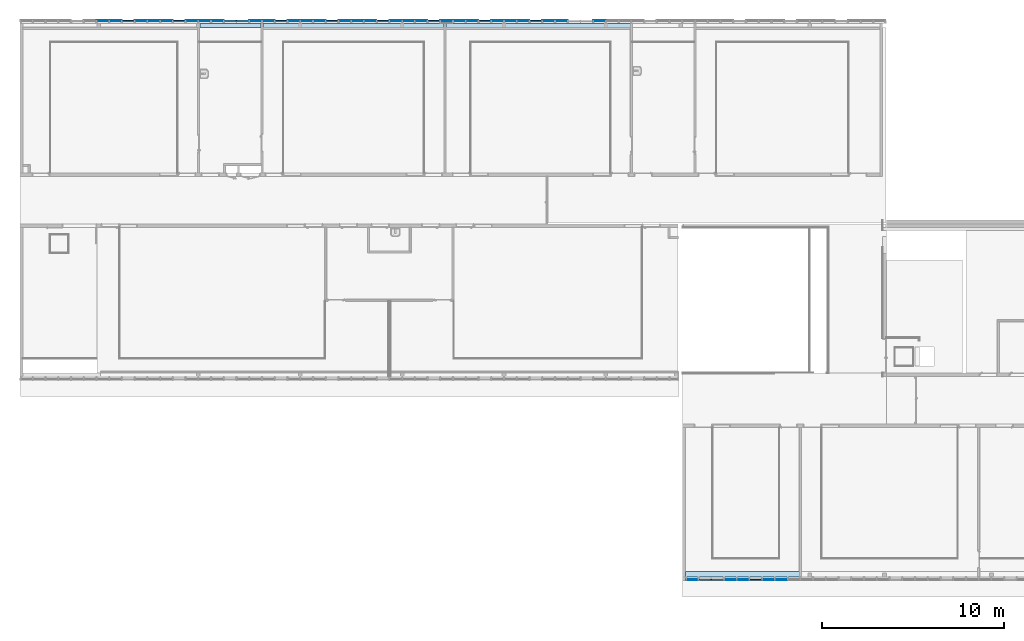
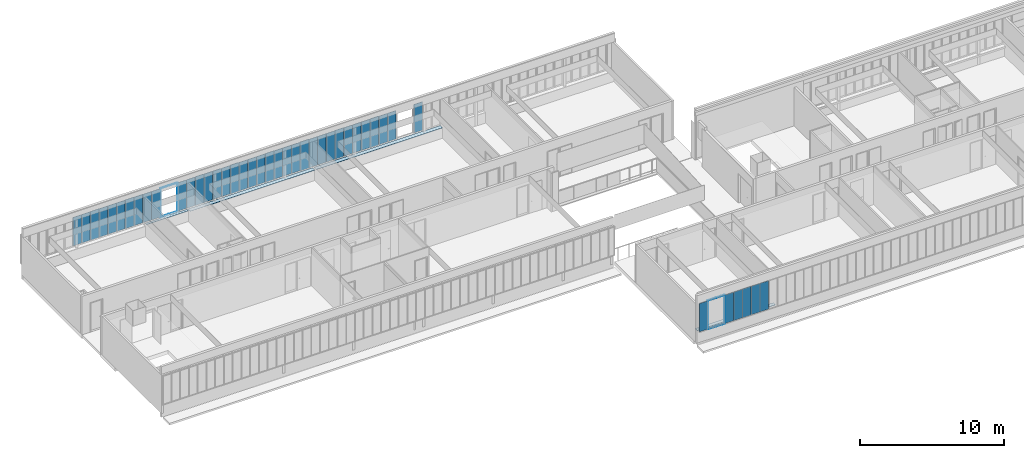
# One storey, part 20 of 87: 46 plates, 4 slabs, 2 elements without a shape of their own.
"""IFC2X3 building model written with IfcOpenShell, lengths in centimetres."""

from ifc_helpers import new_model, entity, si_unit, converted_unit, derived_unit, direction, frame, frame_2d, origin, origin_2d_with_axis, place, context, subcontext, project, spatial, rectangle, extrude, face_set, faceted_brep, surface_model, source, transform, mapped, material, layer, layer_set, layer_usage, type_object, type_shapes, element, aggregate, save


model = new_model("IFC2X3")

# Units and contexts
model_context = context("Model", 3, precision=0.001, world=origin(), true_north=direction((6.12303176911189e-17, 1.0)))
body_context = subcontext(model_context, "Body", "Model", "MODEL_VIEW")
ifc_project = project(units=[si_unit("LENGTHUNIT", "METRE", prefix="CENTI"), si_unit("AREAUNIT", "SQUARE_METRE"), si_unit("VOLUMEUNIT", "CUBIC_METRE"), converted_unit("PLANEANGLEUNIT", "DEGREE", entity("IfcRatioMeasure", 0.0174532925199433), si_unit("PLANEANGLEUNIT", "RADIAN"), dimensions=[0, 0, 0, 0, 0, 0, 0]), si_unit("MASSUNIT", "GRAM", prefix="KILO"), derived_unit("MASSDENSITYUNIT", [(si_unit("MASSUNIT", "GRAM", prefix="KILO"), 1), (si_unit("LENGTHUNIT", "METRE"), -3)]), si_unit("TIMEUNIT", "SECOND"), si_unit("FREQUENCYUNIT", "HERTZ"), si_unit("THERMODYNAMICTEMPERATUREUNIT", "DEGREE_CELSIUS"), derived_unit("THERMALTRANSMITTANCEUNIT", [(si_unit("MASSUNIT", "GRAM", prefix="KILO"), 1), (si_unit("THERMODYNAMICTEMPERATUREUNIT", "KELVIN"), -1), (si_unit("TIMEUNIT", "SECOND"), -3)]), derived_unit("VOLUMETRICFLOWRATEUNIT", [(si_unit("LENGTHUNIT", "METRE"), 3), (si_unit("TIMEUNIT", "SECOND"), -1)]), si_unit("ELECTRICCURRENTUNIT", "AMPERE"), si_unit("ELECTRICVOLTAGEUNIT", "VOLT"), si_unit("POWERUNIT", "WATT"), si_unit("FORCEUNIT", "NEWTON", prefix="KILO"), si_unit("ILLUMINANCEUNIT", "LUX"), si_unit("LUMINOUSFLUXUNIT", "LUMEN"), si_unit("LUMINOUSINTENSITYUNIT", "CANDELA"), derived_unit("USERDEFINED", [(si_unit("MASSUNIT", "GRAM", prefix="KILO"), -1), (si_unit("LENGTHUNIT", "METRE"), -2), (si_unit("TIMEUNIT", "SECOND"), 3), (si_unit("LUMINOUSFLUXUNIT", "LUMEN"), 1)]), derived_unit("LINEARVELOCITYUNIT", [(si_unit("LENGTHUNIT", "METRE"), 1), (si_unit("TIMEUNIT", "SECOND"), -1)]), si_unit("PRESSUREUNIT", "PASCAL"), derived_unit("USERDEFINED", [(si_unit("LENGTHUNIT", "METRE"), -2), (si_unit("MASSUNIT", "GRAM", prefix="KILO"), 1), (si_unit("TIMEUNIT", "SECOND"), -2)])], contexts=[model_context])

# Site, building, storey
site_placement = place(None, frame((-2781.94577612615, 7442.24238424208, 0.0)))
site = spatial("IfcSite", under=ifc_project, at=site_placement, Name="Default", CompositionType="ELEMENT")
building_placement = place(site_placement, origin())
building = spatial("IfcBuilding", under=site, at=building_placement, CompositionType="ELEMENT")
storey_placement = place(building_placement, frame((0.0, 0.0, 774.0)))
storey = spatial("IfcBuildingStorey", under=building, at=storey_placement, Name="TR - N02 - ARCH", CompositionType="ELEMENT", Elevation=774.0)

# Curtain wall, plate
curtain_wall_type = type_object("IfcCurtainWallType", Name="Mur-rideau:07 - mur rideau trame 70cm", PredefinedType="NOTDEFINED")
curtain_wall_1_placement = place(storey_placement, frame((0.0, 0.0, -774.0)))
curtain_wall_1 = element("IfcCurtainWall", 1, at=curtain_wall_1_placement, inside=storey, type_object=curtain_wall_type, Name="Mur-rideau:07 - mur rideau trame 70cm", ObjectType="Mur-rideau:07 - mur rideau trame 70cm")
ifc_material_1 = material(Name="Verre")
ifc_layer_1 = layer(ifc_material_1, 4.0)
ifc_layer_set_1 = layer_set([ifc_layer_1], Name="Panneau système:Vitré")
ifc_layer_usage_1 = layer_usage(ifc_layer_set_1, "AXIS3", "POSITIVE", 0.0)
plate_type_1 = type_object("IfcPlateType", Name="Vitré", PredefinedType="CURTAIN_PANEL", material=ifc_layer_set_1)
shared_shape_1 = source(origin(), body_context, "Body", "SweptSolid", [
    extrude(rectangle(XDim=4.0, YDim=65.0125000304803, at=origin_2d_with_axis()), frame((0.0, 0.0, 0.0), z_axis=(0.0, 0.0, 1.0), x_axis=(0.0, 1.0, 0.0)), (0.0, 0.0, 1.0), 240.7625),
])
type_shapes(plate_type_1, [shared_shape_1])
plate_1_placement = place(curtain_wall_1_placement, frame((-4714.12488282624, -3046.51349958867, 861.618750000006)))
plate_1 = element("IfcPlate", 2, at=plate_1_placement, type_object=plate_type_1, material=ifc_layer_usage_1, Name="Panneau système:Vitré", ObjectType="Panneau système:Vitré", context=body_context, shape_type="MappedRepresentation", body=[
    mapped(shared_shape_1, transform((0.0, 0.0, 0.0), scale=1.0)),
])

# Curtain wall, plates
curtain_wall_2_placement = place(storey_placement, frame((0.0, 0.0, -774.0)))
curtain_wall_2 = element("IfcCurtainWall", 3, at=curtain_wall_2_placement, inside=storey, type_object=curtain_wall_type, Name="Mur-rideau:07 - mur rideau trame 70cm", ObjectType="Mur-rideau:07 - mur rideau trame 70cm")
ifc_layer_usage_2 = layer_usage(ifc_layer_set_1, "AXIS3", "POSITIVE", 0.0)
plate_type_2 = type_object("IfcPlateType", Name="Vitré", PredefinedType="CURTAIN_PANEL", material=ifc_layer_set_1)
shared_shape_2 = source(origin(), body_context, "Body", "SweptSolid", [
    extrude(rectangle(XDim=4.0, YDim=68.2624999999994, at=origin_2d_with_axis()), frame((0.0, 0.0, 0.0), z_axis=(0.0, 0.0, 1.0), x_axis=(0.0, 1.0, 0.0)), (0.0, 0.0, 1.0), 240.7625),
])
type_shapes(plate_type_2, [shared_shape_2])
plate_2_placement = place(curtain_wall_2_placement, frame((-5224.4998776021, 26.2000000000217, 861.61875), z_axis=(0.0, 0.0, 1.0), x_axis=(-1.0, 0.0, 0.0)))
plate_2 = element("IfcPlate", 4, at=plate_2_placement, type_object=plate_type_2, material=ifc_layer_usage_2, Name="Panneau système:Vitré", ObjectType="Panneau système:Vitré", context=body_context, shape_type="MappedRepresentation", body=[
    mapped(shared_shape_2, transform((0.0, 0.0, 0.0), scale=1.0)),
])
ifc_layer_usage_3 = layer_usage(ifc_layer_set_1, "AXIS3", "POSITIVE", 0.0)
plate_3_placement = place(curtain_wall_2_placement, frame((-5434.4998776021, 26.2000000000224, 861.61875), z_axis=(0.0, 0.0, 1.0), x_axis=(-1.0, 0.0, 0.0)))
plate_3 = element("IfcPlate", 5, at=plate_3_placement, type_object=plate_type_2, material=ifc_layer_usage_3, Name="Panneau système:Vitré", ObjectType="Panneau système:Vitré", context=body_context, shape_type="MappedRepresentation", body=[
    mapped(shared_shape_2, transform((0.0, 0.0, 0.0), scale=1.0)),
])
ifc_layer_usage_4 = layer_usage(ifc_layer_set_1, "AXIS3", "POSITIVE", 0.0)
plate_4_placement = place(curtain_wall_2_placement, frame((-5504.4998776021, 26.2000000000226, 861.61875), z_axis=(0.0, 0.0, 1.0), x_axis=(-1.0, 0.0, 0.0)))
plate_4 = element("IfcPlate", 6, at=plate_4_placement, type_object=plate_type_2, material=ifc_layer_usage_4, Name="Panneau système:Vitré", ObjectType="Panneau système:Vitré", context=body_context, shape_type="MappedRepresentation", body=[
    mapped(shared_shape_2, transform((0.0, 0.0, 0.0), scale=1.0)),
])
ifc_layer_usage_5 = layer_usage(ifc_layer_set_1, "AXIS3", "POSITIVE", 0.0)
plate_5_placement = place(curtain_wall_2_placement, frame((-5644.4998776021, 26.2000000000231, 861.61875), z_axis=(0.0, 0.0, 1.0), x_axis=(-1.0, 0.0, 0.0)))
plate_5 = element("IfcPlate", 7, at=plate_5_placement, type_object=plate_type_2, material=ifc_layer_usage_5, Name="Panneau système:Vitré", ObjectType="Panneau système:Vitré", context=body_context, shape_type="MappedRepresentation", body=[
    mapped(shared_shape_2, transform((0.0, 0.0, 0.0), scale=1.0)),
])
ifc_layer_usage_6 = layer_usage(ifc_layer_set_1, "AXIS3", "POSITIVE", 0.0)
plate_6_placement = place(curtain_wall_2_placement, frame((-5714.49987760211, 26.2000000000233, 861.61875), z_axis=(0.0, 0.0, 1.0), x_axis=(-1.0, 0.0, 0.0)))
plate_6 = element("IfcPlate", 8, at=plate_6_placement, type_object=plate_type_2, material=ifc_layer_usage_6, Name="Panneau système:Vitré", ObjectType="Panneau système:Vitré", context=body_context, shape_type="MappedRepresentation", body=[
    mapped(shared_shape_2, transform((0.0, 0.0, 0.0), scale=1.0)),
])
ifc_layer_usage_7 = layer_usage(ifc_layer_set_1, "AXIS3", "POSITIVE", 0.0)
plate_7_placement = place(curtain_wall_2_placement, frame((-5784.4998776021, 26.2000000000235, 861.61875), z_axis=(0.0, 0.0, 1.0), x_axis=(-1.0, 0.0, 0.0)))
plate_7 = element("IfcPlate", 9, at=plate_7_placement, type_object=plate_type_2, material=ifc_layer_usage_7, Name="Panneau système:Vitré", ObjectType="Panneau système:Vitré", context=body_context, shape_type="MappedRepresentation", body=[
    mapped(shared_shape_2, transform((0.0, 0.0, 0.0), scale=1.0)),
])
ifc_layer_usage_8 = layer_usage(ifc_layer_set_1, "AXIS3", "POSITIVE", 0.0)
plate_8_placement = place(curtain_wall_2_placement, frame((-5924.4998776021, 26.200000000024, 861.61875), z_axis=(0.0, 0.0, 1.0), x_axis=(-1.0, 0.0, 0.0)))
plate_8 = element("IfcPlate", 10, at=plate_8_placement, type_object=plate_type_2, material=ifc_layer_usage_8, Name="Panneau système:Vitré", ObjectType="Panneau système:Vitré", context=body_context, shape_type="MappedRepresentation", body=[
    mapped(shared_shape_2, transform((0.0, 0.0, 0.0), scale=1.0)),
])
ifc_layer_usage_9 = layer_usage(ifc_layer_set_1, "AXIS3", "POSITIVE", 0.0)
plate_9_placement = place(curtain_wall_2_placement, frame((-5994.4998776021, 26.2000000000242, 861.61875), z_axis=(0.0, 0.0, 1.0), x_axis=(-1.0, 0.0, 0.0)))
plate_9 = element("IfcPlate", 11, at=plate_9_placement, type_object=plate_type_2, material=ifc_layer_usage_9, Name="Panneau système:Vitré", ObjectType="Panneau système:Vitré", context=body_context, shape_type="MappedRepresentation", body=[
    mapped(shared_shape_2, transform((0.0, 0.0, 0.0), scale=1.0)),
])
ifc_layer_usage_10 = layer_usage(ifc_layer_set_1, "AXIS3", "POSITIVE", 0.0)
plate_10_placement = place(curtain_wall_2_placement, frame((-6064.49987760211, 26.2000000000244, 861.61875), z_axis=(0.0, 0.0, 1.0), x_axis=(-1.0, 0.0, 0.0)))
plate_10 = element("IfcPlate", 12, at=plate_10_placement, type_object=plate_type_2, material=ifc_layer_usage_10, Name="Panneau système:Vitré", ObjectType="Panneau système:Vitré", context=body_context, shape_type="MappedRepresentation", body=[
    mapped(shared_shape_2, transform((0.0, 0.0, 0.0), scale=1.0)),
])
ifc_layer_usage_11 = layer_usage(ifc_layer_set_1, "AXIS3", "POSITIVE", 0.0)
plate_11_placement = place(curtain_wall_2_placement, frame((-6204.49987760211, 26.2000000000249, 861.61875), z_axis=(0.0, 0.0, 1.0), x_axis=(-1.0, 0.0, 0.0)))
plate_11 = element("IfcPlate", 13, at=plate_11_placement, type_object=plate_type_2, material=ifc_layer_usage_11, Name="Panneau système:Vitré", ObjectType="Panneau système:Vitré", context=body_context, shape_type="MappedRepresentation", body=[
    mapped(shared_shape_2, transform((0.0, 0.0, 0.0), scale=1.0)),
])
ifc_layer_usage_12 = layer_usage(ifc_layer_set_1, "AXIS3", "POSITIVE", 0.0)
plate_12_placement = place(curtain_wall_2_placement, frame((-6274.49987760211, 26.2000000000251, 861.61875), z_axis=(0.0, 0.0, 1.0), x_axis=(-1.0, 0.0, 0.0)))
plate_12 = element("IfcPlate", 14, at=plate_12_placement, type_object=plate_type_2, material=ifc_layer_usage_12, Name="Panneau système:Vitré", ObjectType="Panneau système:Vitré", context=body_context, shape_type="MappedRepresentation", body=[
    mapped(shared_shape_2, transform((0.0, 0.0, 0.0), scale=1.0)),
])
ifc_layer_usage_13 = layer_usage(ifc_layer_set_1, "AXIS3", "POSITIVE", 0.0)
plate_13_placement = place(curtain_wall_2_placement, frame((-6344.49987760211, 26.2000000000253, 861.61875), z_axis=(0.0, 0.0, 1.0), x_axis=(-1.0, 0.0, 0.0)))
plate_13 = element("IfcPlate", 15, at=plate_13_placement, type_object=plate_type_2, material=ifc_layer_usage_13, Name="Panneau système:Vitré", ObjectType="Panneau système:Vitré", context=body_context, shape_type="MappedRepresentation", body=[
    mapped(shared_shape_2, transform((0.0, 0.0, 0.0), scale=1.0)),
])
ifc_layer_usage_14 = layer_usage(ifc_layer_set_1, "AXIS3", "POSITIVE", 0.0)
plate_14_placement = place(curtain_wall_2_placement, frame((-6484.49987760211, 26.2000000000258, 861.61875), z_axis=(0.0, 0.0, 1.0), x_axis=(-1.0, 0.0, 0.0)))
plate_14 = element("IfcPlate", 16, at=plate_14_placement, type_object=plate_type_2, material=ifc_layer_usage_14, Name="Panneau système:Vitré", ObjectType="Panneau système:Vitré", context=body_context, shape_type="MappedRepresentation", body=[
    mapped(shared_shape_2, transform((0.0, 0.0, 0.0), scale=1.0)),
])
ifc_layer_usage_15 = layer_usage(ifc_layer_set_1, "AXIS3", "POSITIVE", 0.0)
plate_15_placement = place(curtain_wall_2_placement, frame((-6554.49987760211, 26.200000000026, 861.61875), z_axis=(0.0, 0.0, 1.0), x_axis=(-1.0, 0.0, 0.0)))
plate_15 = element("IfcPlate", 17, at=plate_15_placement, type_object=plate_type_2, material=ifc_layer_usage_15, Name="Panneau système:Vitré", ObjectType="Panneau système:Vitré", context=body_context, shape_type="MappedRepresentation", body=[
    mapped(shared_shape_2, transform((0.0, 0.0, 0.0), scale=1.0)),
])
ifc_layer_usage_16 = layer_usage(ifc_layer_set_1, "AXIS3", "POSITIVE", 0.0)
plate_16_placement = place(curtain_wall_2_placement, frame((-6624.49987760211, 26.2000000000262, 861.61875), z_axis=(0.0, 0.0, 1.0), x_axis=(-1.0, 0.0, 0.0)))
plate_16 = element("IfcPlate", 18, at=plate_16_placement, type_object=plate_type_2, material=ifc_layer_usage_16, Name="Panneau système:Vitré", ObjectType="Panneau système:Vitré", context=body_context, shape_type="MappedRepresentation", body=[
    mapped(shared_shape_2, transform((0.0, 0.0, 0.0), scale=1.0)),
])
ifc_layer_usage_17 = layer_usage(ifc_layer_set_1, "AXIS3", "POSITIVE", 0.0)
plate_17_placement = place(curtain_wall_2_placement, frame((-6764.49987760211, 26.2000000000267, 861.61875), z_axis=(0.0, 0.0, 1.0), x_axis=(-1.0, 0.0, 0.0)))
plate_17 = element("IfcPlate", 19, at=plate_17_placement, type_object=plate_type_2, material=ifc_layer_usage_17, Name="Panneau système:Vitré", ObjectType="Panneau système:Vitré", context=body_context, shape_type="MappedRepresentation", body=[
    mapped(shared_shape_2, transform((0.0, 0.0, 0.0), scale=1.0)),
])
ifc_layer_usage_18 = layer_usage(ifc_layer_set_1, "AXIS3", "POSITIVE", 0.0)
plate_18_placement = place(curtain_wall_2_placement, frame((-6834.49987760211, 26.2000000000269, 861.61875), z_axis=(0.0, 0.0, 1.0), x_axis=(-1.0, 0.0, 0.0)))
plate_18 = element("IfcPlate", 20, at=plate_18_placement, type_object=plate_type_2, material=ifc_layer_usage_18, Name="Panneau système:Vitré", ObjectType="Panneau système:Vitré", context=body_context, shape_type="MappedRepresentation", body=[
    mapped(shared_shape_2, transform((0.0, 0.0, 0.0), scale=1.0)),
])
ifc_layer_usage_19 = layer_usage(ifc_layer_set_1, "AXIS3", "POSITIVE", 0.0)
plate_19_placement = place(curtain_wall_2_placement, frame((-6904.49987760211, 26.2000000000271, 861.61875), z_axis=(0.0, 0.0, 1.0), x_axis=(-1.0, 0.0, 0.0)))
plate_19 = element("IfcPlate", 21, at=plate_19_placement, type_object=plate_type_2, material=ifc_layer_usage_19, Name="Panneau système:Vitré", ObjectType="Panneau système:Vitré", context=body_context, shape_type="MappedRepresentation", body=[
    mapped(shared_shape_2, transform((0.0, 0.0, 0.0), scale=1.0)),
])
ifc_layer_usage_20 = layer_usage(ifc_layer_set_1, "AXIS3", "POSITIVE", 0.0)
plate_20_placement = place(curtain_wall_2_placement, frame((-7044.49987760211, 26.2000000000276, 861.61875), z_axis=(0.0, 0.0, 1.0), x_axis=(-1.0, 0.0, 0.0)))
plate_20 = element("IfcPlate", 22, at=plate_20_placement, type_object=plate_type_2, material=ifc_layer_usage_20, Name="Panneau système:Vitré", ObjectType="Panneau système:Vitré", context=body_context, shape_type="MappedRepresentation", body=[
    mapped(shared_shape_2, transform((0.0, 0.0, 0.0), scale=1.0)),
])
ifc_layer_usage_21 = layer_usage(ifc_layer_set_1, "AXIS3", "POSITIVE", 0.0)
plate_21_placement = place(curtain_wall_2_placement, frame((-7114.49987760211, 26.2000000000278, 861.61875), z_axis=(0.0, 0.0, 1.0), x_axis=(-1.0, 0.0, 0.0)))
plate_21 = element("IfcPlate", 23, at=plate_21_placement, type_object=plate_type_2, material=ifc_layer_usage_21, Name="Panneau système:Vitré", ObjectType="Panneau système:Vitré", context=body_context, shape_type="MappedRepresentation", body=[
    mapped(shared_shape_2, transform((0.0, 0.0, 0.0), scale=1.0)),
])
ifc_layer_usage_22 = layer_usage(ifc_layer_set_1, "AXIS3", "POSITIVE", 0.0)
plate_22_placement = place(curtain_wall_2_placement, frame((-7324.49987760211, 26.2000000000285, 861.61875), z_axis=(0.0, 0.0, 1.0), x_axis=(-1.0, 0.0, 0.0)))
plate_22 = element("IfcPlate", 24, at=plate_22_placement, type_object=plate_type_2, material=ifc_layer_usage_22, Name="Panneau système:Vitré", ObjectType="Panneau système:Vitré", context=body_context, shape_type="MappedRepresentation", body=[
    mapped(shared_shape_2, transform((0.0, 0.0, 0.0), scale=1.0)),
])
ifc_layer_usage_23 = layer_usage(ifc_layer_set_1, "AXIS3", "POSITIVE", 0.0)
plate_23_placement = place(curtain_wall_2_placement, frame((-7394.49987760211, 26.2000000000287, 861.61875), z_axis=(0.0, 0.0, 1.0), x_axis=(-1.0, 0.0, 0.0)))
plate_23 = element("IfcPlate", 25, at=plate_23_placement, type_object=plate_type_2, material=ifc_layer_usage_23, Name="Panneau système:Vitré", ObjectType="Panneau système:Vitré", context=body_context, shape_type="MappedRepresentation", body=[
    mapped(shared_shape_2, transform((0.0, 0.0, 0.0), scale=1.0)),
])
ifc_layer_usage_24 = layer_usage(ifc_layer_set_1, "AXIS3", "POSITIVE", 0.0)
plate_24_placement = place(curtain_wall_2_placement, frame((-7464.49987760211, 26.200000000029, 861.61875), z_axis=(0.0, 0.0, 1.0), x_axis=(-1.0, 0.0, 0.0)))
plate_24 = element("IfcPlate", 26, at=plate_24_placement, type_object=plate_type_2, material=ifc_layer_usage_24, Name="Panneau système:Vitré", ObjectType="Panneau système:Vitré", context=body_context, shape_type="MappedRepresentation", body=[
    mapped(shared_shape_2, transform((0.0, 0.0, 0.0), scale=1.0)),
])
ifc_layer_usage_25 = layer_usage(ifc_layer_set_1, "AXIS3", "POSITIVE", 0.0)
plate_25_placement = place(curtain_wall_2_placement, frame((-7604.49987760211, 26.2000000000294, 861.61875), z_axis=(0.0, 0.0, 1.0), x_axis=(-1.0, 0.0, 0.0)))
plate_25 = element("IfcPlate", 27, at=plate_25_placement, type_object=plate_type_2, material=ifc_layer_usage_25, Name="Panneau système:Vitré", ObjectType="Panneau système:Vitré", context=body_context, shape_type="MappedRepresentation", body=[
    mapped(shared_shape_2, transform((0.0, 0.0, 0.0), scale=1.0)),
])
ifc_layer_usage_26 = layer_usage(ifc_layer_set_1, "AXIS3", "POSITIVE", 0.0)
plate_26_placement = place(curtain_wall_2_placement, frame((-7674.49987760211, 26.2000000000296, 861.61875), z_axis=(0.0, 0.0, 1.0), x_axis=(-1.0, 0.0, 0.0)))
plate_26 = element("IfcPlate", 28, at=plate_26_placement, type_object=plate_type_2, material=ifc_layer_usage_26, Name="Panneau système:Vitré", ObjectType="Panneau système:Vitré", context=body_context, shape_type="MappedRepresentation", body=[
    mapped(shared_shape_2, transform((0.0, 0.0, 0.0), scale=1.0)),
])
ifc_layer_usage_27 = layer_usage(ifc_layer_set_1, "AXIS3", "POSITIVE", 0.0)
plate_27_placement = place(curtain_wall_2_placement, frame((-7744.49987760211, 26.2000000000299, 861.61875), z_axis=(0.0, 0.0, 1.0), x_axis=(-1.0, 0.0, 0.0)))
plate_27 = element("IfcPlate", 29, at=plate_27_placement, type_object=plate_type_2, material=ifc_layer_usage_27, Name="Panneau système:Vitré", ObjectType="Panneau système:Vitré", context=body_context, shape_type="MappedRepresentation", body=[
    mapped(shared_shape_2, transform((0.0, 0.0, 0.0), scale=1.0)),
])
ifc_layer_usage_28 = layer_usage(ifc_layer_set_1, "AXIS3", "POSITIVE", 0.0)
plate_28_placement = place(curtain_wall_2_placement, frame((-7884.4998776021, 26.2000000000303, 861.61875), z_axis=(0.0, 0.0, 1.0), x_axis=(-1.0, 0.0, 0.0)))
plate_28 = element("IfcPlate", 30, at=plate_28_placement, type_object=plate_type_2, material=ifc_layer_usage_28, Name="Panneau système:Vitré", ObjectType="Panneau système:Vitré", context=body_context, shape_type="MappedRepresentation", body=[
    mapped(shared_shape_2, transform((0.0, 0.0, 0.0), scale=1.0)),
])
ifc_layer_usage_29 = layer_usage(ifc_layer_set_1, "AXIS3", "POSITIVE", 0.0)
plate_29_placement = place(curtain_wall_2_placement, frame((-7954.49987760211, 26.2000000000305, 861.61875), z_axis=(0.0, 0.0, 1.0), x_axis=(-1.0, 0.0, 0.0)))
plate_29 = element("IfcPlate", 31, at=plate_29_placement, type_object=plate_type_2, material=ifc_layer_usage_29, Name="Panneau système:Vitré", ObjectType="Panneau système:Vitré", context=body_context, shape_type="MappedRepresentation", body=[
    mapped(shared_shape_2, transform((0.0, 0.0, 0.0), scale=1.0)),
])

# Plate
ifc_layer_usage_30 = layer_usage(ifc_layer_set_1, "AXIS3", "POSITIVE", 0.0)
plate_30_placement = place(curtain_wall_1_placement, frame((-4505.749882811, -3046.51349958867, 861.618750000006)))
plate_30 = element("IfcPlate", 32, at=plate_30_placement, type_object=plate_type_2, material=ifc_layer_usage_30, Name="Panneau système:Vitré", ObjectType="Panneau système:Vitré", context=body_context, shape_type="MappedRepresentation", body=[
    mapped(shared_shape_2, transform((0.0, 0.0, 0.0), scale=1.0)),
])

ifc_layer_usage_31 = layer_usage(ifc_layer_set_1, "AXIS3", "POSITIVE", 0.0)
plate_31_placement = place(curtain_wall_1_placement, frame((-4435.749882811, -3046.51349958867, 861.618750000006)))
plate_31 = element("IfcPlate", 33, at=plate_31_placement, type_object=plate_type_2, material=ifc_layer_usage_31, Name="Panneau système:Vitré", ObjectType="Panneau système:Vitré", context=body_context, shape_type="MappedRepresentation", body=[
    mapped(shared_shape_2, transform((0.0, 0.0, 0.0), scale=1.0)),
])

ifc_layer_usage_32 = layer_usage(ifc_layer_set_1, "AXIS3", "POSITIVE", 0.0)
plate_32_placement = place(curtain_wall_1_placement, frame((-4295.749882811, -3046.51349958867, 861.618750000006)))
plate_32 = element("IfcPlate", 34, at=plate_32_placement, type_object=plate_type_2, material=ifc_layer_usage_32, Name="Panneau système:Vitré", ObjectType="Panneau système:Vitré", context=body_context, shape_type="MappedRepresentation", body=[
    mapped(shared_shape_2, transform((0.0, 0.0, 0.0), scale=1.0)),
])

ifc_layer_usage_33 = layer_usage(ifc_layer_set_1, "AXIS3", "POSITIVE", 0.0)
plate_33_placement = place(curtain_wall_1_placement, frame((-4225.749882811, -3046.51349958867, 861.618750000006)))
plate_33 = element("IfcPlate", 35, at=plate_33_placement, type_object=plate_type_2, material=ifc_layer_usage_33, Name="Panneau système:Vitré", ObjectType="Panneau système:Vitré", context=body_context, shape_type="MappedRepresentation", body=[
    mapped(shared_shape_2, transform((0.0, 0.0, 0.0), scale=1.0)),
])

plate_type_3 = type_object("IfcPlateType", Name="Vitré", PredefinedType="CURTAIN_PANEL", material=ifc_layer_set_1)
shared_shape_3 = source(origin(), body_context, "Body", "Brep", [
    faceted_brep([(-34.13125, -2.0, 1.73749999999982), (34.1312499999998, -2.0, 1.73749999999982), (34.1312499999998, -2.0, 242.5), (-34.1312499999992, -2.0, 242.5), (33.9687499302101, -2.0, 0.0), (33.9687499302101, -2.0, 244.2375), (-34.03125006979, -2.0, 244.2375), (-34.03125006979, -2.0, 0.0), (-34.13125, 2.0, 1.73749999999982), (-34.1312499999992, 2.0, 242.5), (34.1312499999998, 2.0, 242.5), (34.1312499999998, 2.0, 1.73749999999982), (33.9687499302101, 2.0, 0.0), (-34.03125006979, 2.0, 0.0), (-34.03125006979, 2.0, 244.2375), (33.9687499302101, 2.0, 244.2375)], [[[0, 1, 2, 3]], [[4, 5, 6, 7]], [[8, 9, 10, 11]], [[12, 13, 14, 15]], [[1, 0, 8, 11]], [[2, 1, 11, 10]], [[3, 2, 10, 9]], [[0, 3, 9, 8]], [[7, 13, 12, 4]], [[6, 14, 13, 7]], [[5, 15, 14, 6]], [[4, 12, 15, 5]]]),
])
type_shapes(plate_type_3, [shared_shape_3])
plate_34_placement = place(curtain_wall_2_placement, frame((-5574.4998776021, 26.2000000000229, 859.88125), z_axis=(0.0, 0.0, 1.0), x_axis=(-1.0, 0.0, 0.0)))
plate_34 = element("IfcPlate", 36, at=plate_34_placement, type_object=plate_type_3, Name="Panneau système:Vitré", ObjectType="Panneau système:Vitré", context=body_context, shape_type="MappedRepresentation", body=[
    mapped(shared_shape_3, transform((0.0, 0.0, 0.0), scale=1.0)),
])

plate_35_placement = place(curtain_wall_2_placement, frame((-5854.4998776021, 26.2000000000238, 859.88125), z_axis=(0.0, 0.0, 1.0), x_axis=(-1.0, 0.0, 0.0)))
plate_35 = element("IfcPlate", 37, at=plate_35_placement, type_object=plate_type_3, Name="Panneau système:Vitré", ObjectType="Panneau système:Vitré", context=body_context, shape_type="MappedRepresentation", body=[
    mapped(shared_shape_3, transform((0.0, 0.0, 0.0), scale=1.0)),
])

plate_36_placement = place(curtain_wall_2_placement, frame((-6134.4998776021, 26.2000000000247, 859.88125), z_axis=(0.0, 0.0, 1.0), x_axis=(-1.0, 0.0, 0.0)))
plate_36 = element("IfcPlate", 38, at=plate_36_placement, type_object=plate_type_3, Name="Panneau système:Vitré", ObjectType="Panneau système:Vitré", context=body_context, shape_type="MappedRepresentation", body=[
    mapped(shared_shape_3, transform((0.0, 0.0, 0.0), scale=1.0)),
])

plate_37_placement = place(curtain_wall_2_placement, frame((-6414.49987760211, 26.2000000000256, 859.88125), z_axis=(0.0, 0.0, 1.0), x_axis=(-1.0, 0.0, 0.0)))
plate_37 = element("IfcPlate", 39, at=plate_37_placement, type_object=plate_type_3, Name="Panneau système:Vitré", ObjectType="Panneau système:Vitré", context=body_context, shape_type="MappedRepresentation", body=[
    mapped(shared_shape_3, transform((0.0, 0.0, 0.0), scale=1.0)),
])

plate_38_placement = place(curtain_wall_2_placement, frame((-6694.49987760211, 26.2000000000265, 859.88125), z_axis=(0.0, 0.0, 1.0), x_axis=(-1.0, 0.0, 0.0)))
plate_38 = element("IfcPlate", 40, at=plate_38_placement, type_object=plate_type_3, Name="Panneau système:Vitré", ObjectType="Panneau système:Vitré", context=body_context, shape_type="MappedRepresentation", body=[
    mapped(shared_shape_3, transform((0.0, 0.0, 0.0), scale=1.0)),
])

plate_39_placement = place(curtain_wall_2_placement, frame((-6974.49987760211, 26.2000000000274, 859.88125), z_axis=(0.0, 0.0, 1.0), x_axis=(-1.0, 0.0, 0.0)))
plate_39 = element("IfcPlate", 41, at=plate_39_placement, type_object=plate_type_3, Name="Panneau système:Vitré", ObjectType="Panneau système:Vitré", context=body_context, shape_type="MappedRepresentation", body=[
    mapped(shared_shape_3, transform((0.0, 0.0, 0.0), scale=1.0)),
])

plate_40_placement = place(curtain_wall_2_placement, frame((-7534.49987760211, 26.2000000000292, 859.88125), z_axis=(0.0, 0.0, 1.0), x_axis=(-1.0, 0.0, 0.0)))
plate_40 = element("IfcPlate", 42, at=plate_40_placement, type_object=plate_type_3, Name="Panneau système:Vitré", ObjectType="Panneau système:Vitré", context=body_context, shape_type="MappedRepresentation", body=[
    mapped(shared_shape_3, transform((0.0, 0.0, 0.0), scale=1.0)),
])

plate_41_placement = place(curtain_wall_2_placement, frame((-7814.49987760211, 26.2000000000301, 859.88125), z_axis=(0.0, 0.0, 1.0), x_axis=(-1.0, 0.0, 0.0)))
plate_41 = element("IfcPlate", 43, at=plate_41_placement, type_object=plate_type_3, Name="Panneau système:Vitré", ObjectType="Panneau système:Vitré", context=body_context, shape_type="MappedRepresentation", body=[
    mapped(shared_shape_3, transform((0.0, 0.0, 0.0), scale=1.0)),
])

plate_type_4 = type_object("IfcPlateType", Name="Vitré", PredefinedType="CURTAIN_PANEL", material=ifc_layer_set_1)
shared_shape_4 = source(origin(), body_context, "Body", "Brep", [
    faceted_brep([(34.5656250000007, -2.0, 0.0), (-32.1843749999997, -2.0, 0.0), (-32.1843749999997, -2.0, 244.2375), (33.6968750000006, -2.0, 244.2375), (33.6968750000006, -2.0, 242.5), (-34.5656250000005, -2.0, 242.5), (-34.5656249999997, -2.0, 1.73749999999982), (34.5656250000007, -2.0, 1.73749999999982), (34.5656250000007, 2.0, 0.0), (34.5656250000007, 2.0, 1.73749999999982), (-34.5656249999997, 2.0, 1.73749999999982), (-34.5656250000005, 2.0, 242.5), (33.6968750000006, 2.0, 242.5), (33.6968750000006, 2.0, 244.2375), (-32.1843749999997, 2.0, 244.2375), (-32.1843749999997, 2.0, 0.0)], [[[0, 1, 2, 3, 4, 5, 6, 7]], [[8, 9, 10, 11, 12, 13, 14, 15]], [[1, 0, 8, 15]], [[2, 1, 15, 14]], [[3, 2, 14, 13]], [[4, 3, 13, 12]], [[5, 4, 12, 11]], [[6, 5, 11, 10]], [[7, 6, 10, 9]], [[0, 7, 9, 8]]]),
])
type_shapes(plate_type_4, [shared_shape_4])
plate_42_placement = place(curtain_wall_2_placement, frame((-7184.93425260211, 26.2000000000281, 859.88125), z_axis=(0.0, 0.0, 1.0), x_axis=(-1.0, 0.0, 0.0)))
plate_42 = element("IfcPlate", 44, at=plate_42_placement, type_object=plate_type_4, material=ifc_material_1, Name="Panneau système:Vitré", ObjectType="Panneau système:Vitré", context=body_context, shape_type="MappedRepresentation", body=[
    mapped(shared_shape_4, transform((0.0, 0.0, 0.0), scale=1.0)),
])

plate_43_placement = place(curtain_wall_1_placement, frame((-4645.315507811, -3046.51349958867, 859.88125)))
plate_43 = element("IfcPlate", 45, at=plate_43_placement, type_object=plate_type_4, material=ifc_material_1, Name="Panneau système:Vitré", ObjectType="Panneau système:Vitré", context=body_context, shape_type="MappedRepresentation", body=[
    mapped(shared_shape_4, transform((0.0, 0.0, 0.0), scale=1.0)),
])

plate_type_5 = type_object("IfcPlateType", Name="Vitré", PredefinedType="CURTAIN_PANEL", material=ifc_layer_set_1)
shared_shape_5 = source(origin(), body_context, "Body", "Brep", [
    faceted_brep([(32.1843749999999, -2.0, 0.0), (-34.5656249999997, -2.0, 0.0), (-34.5656249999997, -2.0, 1.73749999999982), (34.5656249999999, -2.0, 1.73749999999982), (34.5656249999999, -2.0, 242.5), (-33.6968749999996, -2.0, 242.5), (-33.6968749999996, -2.0, 244.2375), (32.1843749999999, -2.0, 244.2375), (32.1843749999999, 2.0, 0.0), (32.1843749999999, 2.0, 244.2375), (-33.6968749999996, 2.0, 244.2375), (-33.6968749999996, 2.0, 242.5), (34.5656249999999, 2.0, 242.5), (34.5656249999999, 2.0, 1.73749999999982), (-34.5656249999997, 2.0, 1.73749999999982), (-34.5656249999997, 2.0, 0.0)], [[[0, 1, 2, 3, 4, 5, 6, 7]], [[8, 9, 10, 11, 12, 13, 14, 15]], [[1, 0, 8, 15]], [[2, 1, 15, 14]], [[3, 2, 14, 13]], [[4, 3, 13, 12]], [[5, 4, 12, 11]], [[6, 5, 11, 10]], [[7, 6, 10, 9]], [[0, 7, 9, 8]]]),
])
type_shapes(plate_type_5, [shared_shape_5])
plate_44_placement = place(curtain_wall_2_placement, frame((-7254.06550260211, 26.2000000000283, 859.88125), z_axis=(0.0, 0.0, 1.0), x_axis=(-1.0, 0.0, 0.0)))
plate_44 = element("IfcPlate", 46, at=plate_44_placement, type_object=plate_type_5, material=ifc_material_1, Name="Panneau système:Vitré", ObjectType="Panneau système:Vitré", context=body_context, shape_type="MappedRepresentation", body=[
    mapped(shared_shape_5, transform((0.0, 0.0, 0.0), scale=1.0)),
])

aggregate(curtain_wall_2, [plate_2, plate_3, plate_4, plate_34, plate_5, plate_6, plate_7, plate_35, plate_8, plate_9, plate_10, plate_36, plate_11, plate_12, plate_13, plate_37, plate_14, plate_15, plate_16, plate_38, plate_17, plate_18, plate_19, plate_39, plate_20, plate_21, plate_42, plate_44, plate_22, plate_23, plate_24, plate_40, plate_25, plate_26, plate_27, plate_41, plate_28, plate_29])

plate_45_placement = place(curtain_wall_1_placement, frame((-4576.184257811, -3046.51349958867, 859.88125)))
plate_45 = element("IfcPlate", 47, at=plate_45_placement, type_object=plate_type_5, material=ifc_material_1, Name="Panneau système:Vitré", ObjectType="Panneau système:Vitré", context=body_context, shape_type="MappedRepresentation", body=[
    mapped(shared_shape_5, transform((0.0, 0.0, 0.0), scale=1.0)),
])

plate_type_6 = type_object("IfcPlateType", Name="Vitré", PredefinedType="CURTAIN_PANEL", material=ifc_layer_set_1)
shared_shape_6 = source(origin(), body_context, "Body", "SurfaceModel", [
    surface_model("IfcFaceBasedSurfaceModel", [(33.8093776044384, -2.0, 0.0), (33.8093776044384, -2.0, 244.2375), (-34.1906223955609, -2.0, 244.2375), (-34.1906223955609, -2.0, 0.0), (-34.0718776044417, -2.0, 1.73749999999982), (-34.0718776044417, -2.0, 242.5), (34.1906223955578, -2.0, 242.5), (34.1906223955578, -2.0, 1.73749999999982), (-34.0718776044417, 2.0, 1.73749999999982), (34.1906223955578, 2.0, 1.73749999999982), (34.1906223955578, 2.0, 242.5), (-34.0718776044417, 2.0, 242.5), (-34.1906223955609, 2.0, 0.0), (33.8093776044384, 2.0, 0.0), (-34.1906223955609, 2.0, 244.2375), (33.8093776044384, 2.0, 244.2375)], [face_set([[[0, 1, 2, 3], [4, 5, 6, 7]], [[7, 4, 8, 9]], [[6, 7, 9, 10]], [[5, 6, 10, 11]], [[4, 5, 11, 8]], [[3, 12, 13, 0]], [[2, 14, 12, 3]], [[1, 15, 14, 2]], [[0, 13, 15, 1]]])]),
])
type_shapes(plate_type_6, [shared_shape_6])
plate_46_placement = place(curtain_wall_1_placement, frame((-4365.80925520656, -3046.51349958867, 859.88125)))
plate_46 = element("IfcPlate", 48, at=plate_46_placement, type_object=plate_type_6, Name="Panneau système:Vitré", ObjectType="Panneau système:Vitré", context=body_context, shape_type="MappedRepresentation", body=[
    mapped(shared_shape_6, transform((0.0, 0.0, 0.0), scale=1.0)),
])

aggregate(curtain_wall_1, [plate_1, plate_43, plate_45, plate_30, plate_31, plate_46, plate_32, plate_33])

# Slabs
ifc_material_2 = material(Name="Bois tablettes")
ifc_layer_2 = layer(ifc_material_2, 2.0)
ifc_layer_set_2 = layer_set([ifc_layer_2], Name="Sol:02 - Tablette bois 2cm")
ifc_layer_usage_34 = layer_usage(ifc_layer_set_2, "AXIS3", "POSITIVE", 0.0)
slab_type_1 = type_object("IfcSlabType", Name="Sol:02 - Tablette bois 2cm", PredefinedType="FLOOR")
slab_1_placement = place(storey_placement, frame((-7966.49987760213, -3031.21349958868, 88.0)))
element("IfcSlab", 49, at=slab_1_placement, inside=storey, type_object=slab_type_1, material=ifc_layer_usage_34, Name="Sol:02 - Tablette bois 2cm:2", ObjectType="Sol:02 - Tablette bois 2cm", PredefinedType="FLOOR", context=body_context, shape_type="SweptSolid", body=[
    extrude(rectangle(XDim=626.949997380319, YDim=29.9999999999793, at=frame_2d((240.974998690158, -550.667232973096), x_axis=(-1.0, 0.0))), frame((3768.24999738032, 566.567232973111, 2.0), z_axis=(0.0, 0.0, -1.0), x_axis=(-1.0, 0.0, 0.0)), (0.0, 0.0, 1.0), 1.99999999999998),
])
ifc_layer_usage_35 = layer_usage(ifc_layer_set_2, "AXIS3", "POSITIVE", 0.0)
slab_type_2 = type_object("IfcSlabType", Name="Sol:02 - Tablette bois 2cm", PredefinedType="FLOOR")
slab_2_placement = place(storey_placement, frame((-8394.19987766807, -1120.0, 88.0)))
element("IfcSlab", 50, at=slab_2_placement, inside=storey, type_object=slab_type_2, material=ifc_layer_usage_35, Name="Sol:02 - Tablette bois 2cm:3", ObjectType="Sol:02 - Tablette bois 2cm", PredefinedType="FLOOR", context=body_context, shape_type="SweptSolid", body=[
    extrude(rectangle(XDim=31.9999999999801, YDim=1014.30000208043, at=frame_2d((941.899998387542, 549.0), x_axis=(0.0, 1.0))), frame((3774.44999741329, 565.0, 2.0), z_axis=(0.0, 0.0, -1.0), x_axis=(-1.0, 0.0, 0.0)), (0.0, 0.0, 1.0), 1.99999999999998),
])
slab_type_3 = type_object("IfcSlabType", Name="Sol:02 - Tablette bois 2cm", PredefinedType="FLOOR")
slab_3_placement = place(storey_placement, frame((-8394.19987766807, -1120.0, 88.0)))
element("IfcSlab", 51, at=slab_3_placement, inside=storey, type_object=slab_type_3, material=ifc_layer_usage_35, Name="Sol:02 - Tablette bois 2cm:4", ObjectType="Sol:02 - Tablette bois 2cm", PredefinedType="FLOOR", context=body_context, shape_type="SweptSolid", body=[
    extrude(rectangle(XDim=31.9999999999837, YDim=995.699997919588, at=frame_2d((1956.89999838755, 549.0), x_axis=(0.0, 1.0))), frame((3774.44999741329, 565.0, 2.0), z_axis=(0.0, 0.0, -1.0), x_axis=(-1.0, 0.0, 0.0)), (0.0, 0.0, 1.0), 1.99999999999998),
])
slab_type_4 = type_object("IfcSlabType", Name="Sol:02 - Tablette bois 2cm", PredefinedType="FLOOR")
slab_4_placement = place(storey_placement, frame((-8394.19987766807, -1120.0, 88.0)))
element("IfcSlab", 52, at=slab_4_placement, inside=storey, type_object=slab_type_4, material=ifc_layer_usage_35, Name="Sol:02 - Tablette bois 2cm:5", ObjectType="Sol:02 - Tablette bois 2cm", PredefinedType="FLOOR", context=body_context, shape_type="SweptSolid", body=[
    extrude(rectangle(XDim=20.0000000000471, YDim=335.000164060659, at=frame_2d((2632.25007937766, 555.0), x_axis=(0.0, 1.0))), frame((3774.44999741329, 565.0, 2.0), z_axis=(0.0, 0.0, -1.0), x_axis=(-1.0, 0.0, 0.0)), (0.0, 0.0, 1.0), 1.99999999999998),
])

save(model, "model.ifc")
